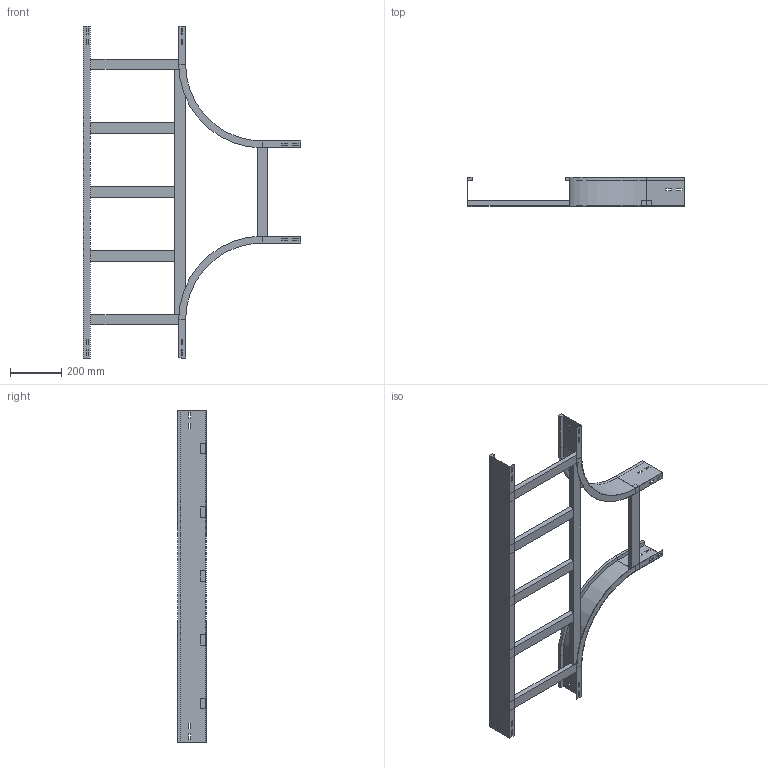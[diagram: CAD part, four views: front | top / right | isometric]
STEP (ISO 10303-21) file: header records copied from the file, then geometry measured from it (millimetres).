
FILE_DESCRIPTION (( 'STEP AP214' ), '1' );
FILE_NAME ('A2_15B3J400.step', '2025-02-21T15:51:28', ( '' ), ( '' ), 'SwSTEP 2.0', 'SolidWorks 2023', '' );
FILE_SCHEMA (( 'AUTOMOTIVE_DESIGN' ));
Length unit declared in the file: millimetre
Products named in the file (6): A2_TRAVERSINO_LONG._R300+400; A2_15B3J400; TRAVERSINO_INTERMEDIO_R300+400; A2_LONGH.RETT_H112.5_R300+400; A2_LONGH.INTERNO 90°_H112.5_R300; TRAVERSINO_400
Assembly tree (10 placements, depth 2):
  A2_15B3J400
    A2_LONGH.INTERNO 90°_H112.5_R300  x2
    A2_LONGH.RETT_H112.5_R300+400
    TRAVERSINO_400  x3
    A2_TRAVERSINO_LONG._R300+400
    TRAVERSINO_INTERMEDIO_R300+400  x3
Bounding box: 850 x 112.5 x 1300 mm (x, y, z)
Volume: 3932401.5 mm3; surface area: 1287201.2 mm2
Topology: 10 solids, 10 shells, 200 faces, 508 edges, 328 vertices
Faces by surface type: plane 192, cylinder 8
Entity records: 3823 total; most frequent: CARTESIAN_POINT 639, ORIENTED_EDGE 616, DIRECTION 578, EDGE_CURVE 308, VECTOR 300, LINE 300, VERTEX_POINT 200, EDGE_LOOP 150
